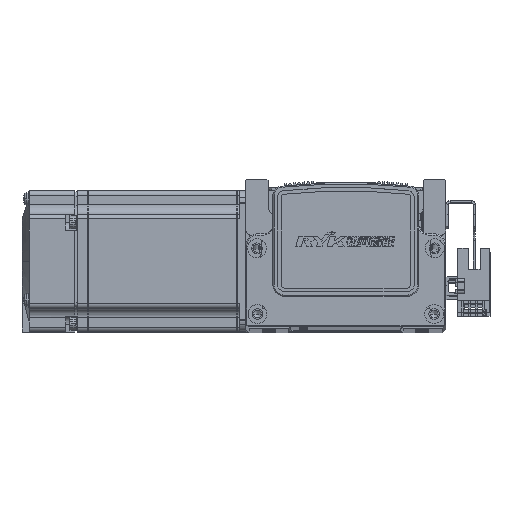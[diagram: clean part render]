
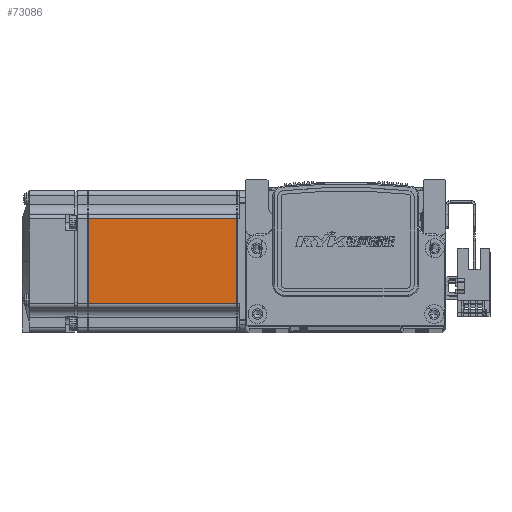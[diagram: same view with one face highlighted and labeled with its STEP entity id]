
A CAD part, top view. The second image highlights one B-rep face of the part: STEP entity #73086.
In plain terms, the highlighted planar face has unit normal (0, 0, 1) as drawn and (0, 0, -1) by its records, which use the part's own axes.
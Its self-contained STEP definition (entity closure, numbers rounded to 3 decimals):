
#6152 = ORIENTED_EDGE ( 'NONE', *, *, #83048, .T. ) ;
#6165 = ORIENTED_EDGE ( 'NONE', *, *, #83113, .T. ) ;
#6193 = ORIENTED_EDGE ( 'NONE', *, *, #83085, .T. ) ;
#6242 = ORIENTED_EDGE ( 'NONE', *, *, #83141, .T. ) ;
#13776 = CARTESIAN_POINT ( 'NONE',  ( -6.5, -18., -30. ) ) ;
#13799 = DIRECTION ( 'NONE',  ( -1., 0., 0. ) ) ;
#13875 = DIRECTION ( 'NONE',  ( 1., 0., 0. ) ) ;
#13891 = CARTESIAN_POINT ( 'NONE',  ( -6.5, 18., -30. ) ) ;
#13944 = CARTESIAN_POINT ( 'NONE',  ( -7.75, 25., -30. ) ) ;
#13959 = DIRECTION ( 'NONE',  ( 0., -1., 0. ) ) ;
#13980 = CARTESIAN_POINT ( 'NONE',  ( -70.95, 25., -30. ) ) ;
#13981 = DIRECTION ( 'NONE',  ( 0., 1., 0. ) ) ;
#20075 = LINE ( 'NONE', #13776, #20111 ) ;
#20111 = VECTOR ( 'NONE', #13799, 1000. ) ;
#20190 = VECTOR ( 'NONE', #13875, 1000. ) ;
#20205 = LINE ( 'NONE', #13891, #20190 ) ;
#20287 = VECTOR ( 'NONE', #13959, 1000. ) ;
#20389 = LINE ( 'NONE', #13944, #20287 ) ;
#20473 = LINE ( 'NONE', #13980, #20504 ) ;
#20504 = VECTOR ( 'NONE', #13981, 1000. ) ;
#31917 = VERTEX_POINT ( 'NONE', #41100 ) ;
#31920 = VERTEX_POINT ( 'NONE', #41144 ) ;
#31987 = VERTEX_POINT ( 'NONE', #41287 ) ;
#32025 = VERTEX_POINT ( 'NONE', #41235 ) ;
#39311 = CARTESIAN_POINT ( 'NONE',  ( -6.5, 25., -30. ) ) ;
#39385 = PLANE ( 'NONE',  #69261 ) ;
#39388 = DIRECTION ( 'NONE',  ( 0., 0., -1. ) ) ;
#39400 = DIRECTION ( 'NONE',  ( -1., 0., 0. ) ) ;
#41100 = CARTESIAN_POINT ( 'NONE',  ( -7.75, -18., -30. ) ) ;
#41144 = CARTESIAN_POINT ( 'NONE',  ( -7.75, 18., -30. ) ) ;
#41235 = CARTESIAN_POINT ( 'NONE',  ( -70.95, -18., -30. ) ) ;
#41287 = CARTESIAN_POINT ( 'NONE',  ( -70.95, 18., -30. ) ) ;
#69261 = AXIS2_PLACEMENT_3D ( 'NONE', #39311, #39388, #39400 ) ;
#71463 = FACE_OUTER_BOUND ( 'NONE', #74384, .T. ) ;
#73086 = ADVANCED_FACE ( 'NONE', ( #71463 ), #39385, .T. ) ;
#74384 = EDGE_LOOP ( 'NONE', ( #6165, #6152, #6242, #6193 ) ) ;
#83048 = EDGE_CURVE ( 'NONE', #31917, #32025, #20075, .T. ) ;
#83085 = EDGE_CURVE ( 'NONE', #31987, #31920, #20205, .T. ) ;
#83113 = EDGE_CURVE ( 'NONE', #31920, #31917, #20389, .T. ) ;
#83141 = EDGE_CURVE ( 'NONE', #32025, #31987, #20473, .T. ) ;
